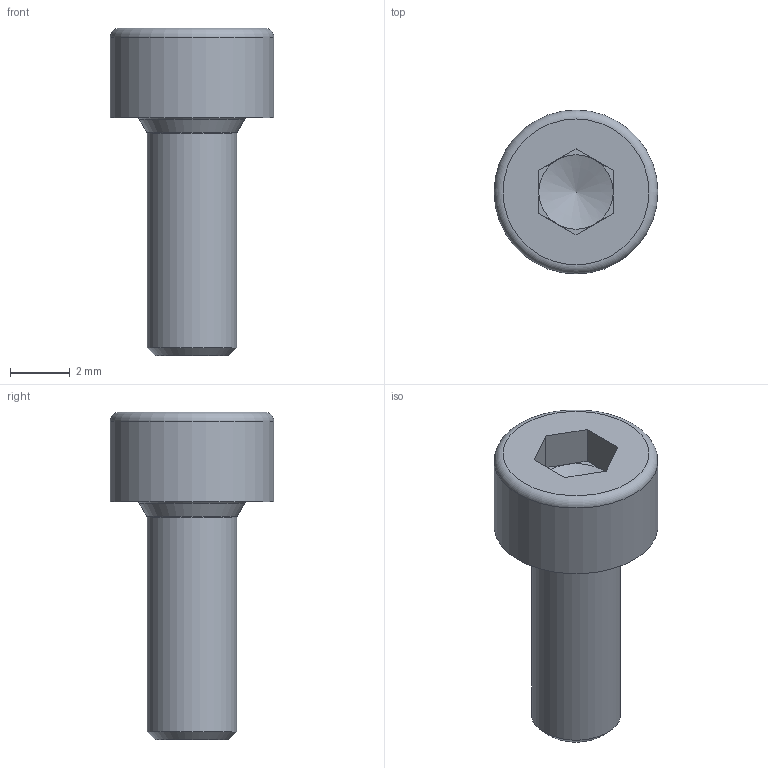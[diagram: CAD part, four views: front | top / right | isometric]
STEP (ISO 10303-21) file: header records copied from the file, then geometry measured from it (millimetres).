
FILE_DESCRIPTION(/* description */ ('STEP AP242 Edition 2','CAx-IF Rec.Pracs.---Representation and Presentation of Product Manufacturing Information (PMI)---4.0---2014-10-13','CAx-IF Rec.Pracs.---3D Tessellated Geometry---0.4---2014-09-14','2;1','CAx-IF Rec.Pracs.---User Defined Attributes---1.5---2016-08-15'),/* implementation_level */ '2;1');
FILE_NAME(/* name */ 'Assy_ForMFG - Hex socket head cap screw M3x0.50 x 8 (2)',/* time_stamp */ '2026-05-15T19:56:14Z',/* author */ (''),/* organization */ (''),/* preprocessor_version */ 'ST-DEVELOPER v20',/* originating_system */ 'ONSHAPE BY PTC INC, 1.215',/* authorisation */ ' ');
FILE_SCHEMA (('AP242_MANAGED_MODEL_BASED_3D_ENGINEERING_MIM_LF { 1 0 10303 442 3 1 4 }'));
Length unit declared in the file: metre
Products named in the file (1): Hex socket head cap screw M3x0.50 x 8
Bounding box: 5.5 x 5.5 x 11 mm (x, y, z)
Volume: 120.2 mm3; surface area: 180.6 mm2
Topology: 1 solids, 1 shells, 23 faces, 49 edges, 29 vertices
Faces by surface type: plane 15, torus 3, cone 3, cylinder 2
Full cylindrical faces by diameter (mm): 3 x1, 5.5 x1
Entity records: 578 total; most frequent: DIRECTION 102, CARTESIAN_POINT 91, ORIENTED_EDGE 78, EDGE_CURVE 39, AXIS2_PLACEMENT_3D 39, FACE_BOUND 33, EDGE_LOOP 32, VERTEX_POINT 28
